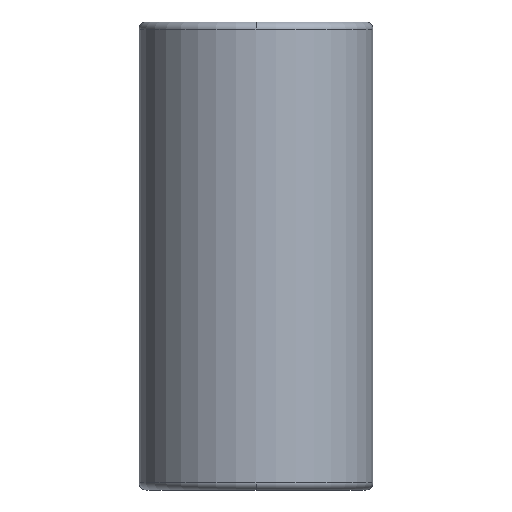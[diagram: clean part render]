
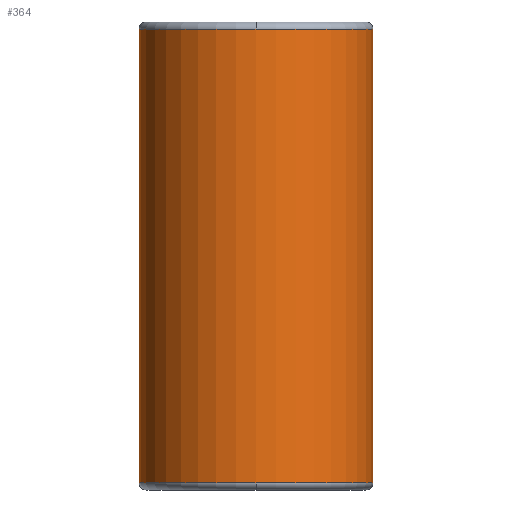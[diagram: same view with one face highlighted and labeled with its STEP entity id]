
A CAD part, front view. The second image highlights one B-rep face of the part: STEP entity #364.
In plain terms, the highlighted cylindrical face has radius 32.493 mm (diameter 64.986 mm), a partial arc.
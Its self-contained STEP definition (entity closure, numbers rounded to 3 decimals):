
#269=CARTESIAN_POINT('',(0.0,-32.493,128.0));
#270=VERTEX_POINT('',#269);
#296=CARTESIAN_POINT('',(-32.493,0.,128.0));
#297=VERTEX_POINT('',#296);
#305=CARTESIAN_POINT('',(0.0,0.,128.0));
#306=DIRECTION('',(0.0,0.0,1.0));
#307=DIRECTION('',(1.0,0.0,0.0));
#308=AXIS2_PLACEMENT_3D('',#305,#306,#307);
#309=CIRCLE('',#308,32.493);
#310=EDGE_CURVE('',#297,#270,#309,.T.);
#315=CARTESIAN_POINT('',(0.0,0.,65.0));
#316=DIRECTION('',(0.0,0.,1.0));
#317=DIRECTION('',(1.0,0.0,0.0));
#318=AXIS2_PLACEMENT_3D('',#315,#316,#317);
#319=CYLINDRICAL_SURFACE('',#318,32.493);
#320=CARTESIAN_POINT('',(32.493,0.,128.0));
#321=VERTEX_POINT('',#320);
#322=CARTESIAN_POINT('',(32.493,0.,2.));
#323=VERTEX_POINT('',#322);
#324=CARTESIAN_POINT('',(32.493,0.,128.0));
#325=DIRECTION('',(0.0,0.0,-1.0));
#326=VECTOR('',#325,126.0);
#327=LINE('',#324,#326);
#328=EDGE_CURVE('',#321,#323,#327,.T.);
#329=ORIENTED_EDGE('',*,*,#328,.F.);
#330=CARTESIAN_POINT('',(0.0,0.,128.0));
#331=DIRECTION('',(0.0,0.0,1.0));
#332=DIRECTION('',(1.0,0.0,0.0));
#333=AXIS2_PLACEMENT_3D('',#330,#331,#332);
#334=CIRCLE('',#333,32.493);
#335=EDGE_CURVE('',#270,#321,#334,.T.);
#336=ORIENTED_EDGE('',*,*,#335,.F.);
#337=ORIENTED_EDGE('',*,*,#310,.F.);
#338=CARTESIAN_POINT('',(-32.493,0.,2.0));
#339=VERTEX_POINT('',#338);
#340=CARTESIAN_POINT('',(-32.493,0.,128.0));
#341=DIRECTION('',(0.0,0.0,-1.0));
#342=VECTOR('',#341,126.0);
#343=LINE('',#340,#342);
#344=EDGE_CURVE('',#297,#339,#343,.T.);
#345=ORIENTED_EDGE('',*,*,#344,.T.);
#346=CARTESIAN_POINT('',(0.0,-32.493,2.));
#347=VERTEX_POINT('',#346);
#348=CARTESIAN_POINT('',(0.0,0.,2.0));
#349=DIRECTION('',(0.0,0.0,1.0));
#350=DIRECTION('',(1.0,0.0,0.0));
#351=AXIS2_PLACEMENT_3D('',#348,#349,#350);
#352=CIRCLE('',#351,32.493);
#353=EDGE_CURVE('',#339,#347,#352,.T.);
#354=ORIENTED_EDGE('',*,*,#353,.T.);
#355=CARTESIAN_POINT('',(0.0,0.,2.0));
#356=DIRECTION('',(0.0,0.0,1.0));
#357=DIRECTION('',(1.0,0.0,0.0));
#358=AXIS2_PLACEMENT_3D('',#355,#356,#357);
#359=CIRCLE('',#358,32.493);
#360=EDGE_CURVE('',#347,#323,#359,.T.);
#361=ORIENTED_EDGE('',*,*,#360,.T.);
#362=EDGE_LOOP('',(#329,#336,#337,#345,#354,#361));
#363=FACE_OUTER_BOUND('',#362,.T.);
#364=ADVANCED_FACE('',(#363),#319,.T.);
